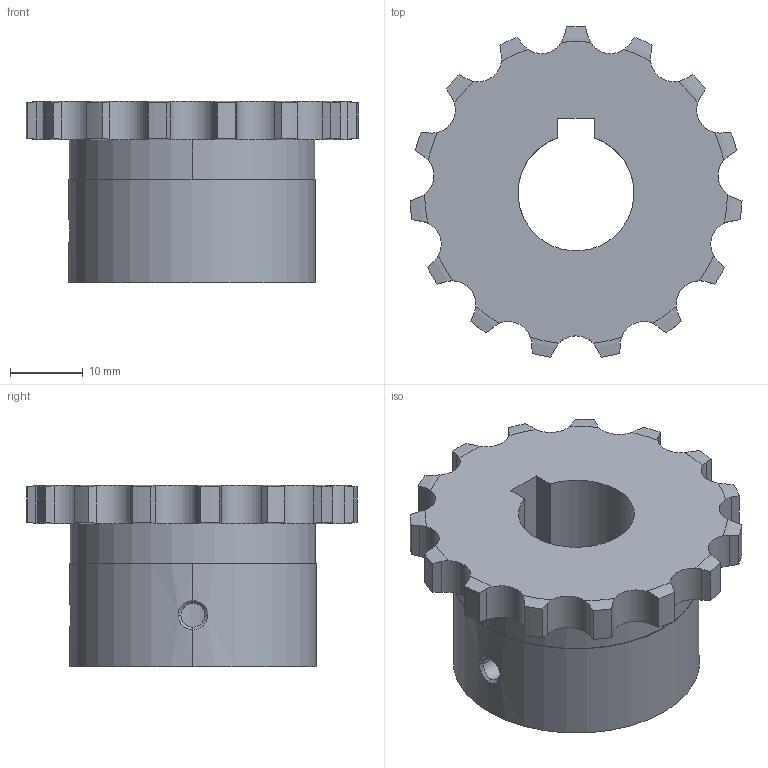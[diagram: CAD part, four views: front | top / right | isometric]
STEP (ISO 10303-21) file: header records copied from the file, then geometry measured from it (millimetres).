
FILE_DESCRIPTION((''),'2;1');
FILE_NAME('510-101-1615_PRT','2021-02-13T',('Brieden'),('Brieden'),'PRO/ENGINEER BY PARAMETRIC TECHNOLOGY CORPORATION, 2010160','PRO/ENGINEER BY PARAMETRIC TECHNOLOGY CORPORATION, 2010160','');
FILE_SCHEMA(('AUTOMOTIVE_DESIGN { 1 0 10303 214 1 1 1 1 }'));
Length unit declared in the file: millimetre
Products named in the file (1): 510-101-1615_PRT
Bounding box: 45.76 x 45.54 x 25 mm (x, y, z)
Volume: 19824 mm3; surface area: 6983.6 mm2
Topology: 1 solids, 1 shells, 112 faces, 321 edges, 212 vertices
Faces by surface type: cylinder 69, torus 30, plane 7, bspline 6
Entity records: 5463 total; most frequent: CARTESIAN_POINT 1673, ORIENTED_EDGE 642, DIRECTION 501, PRESENTATION_STYLE_ASSIGNMENT 322, STYLED_ITEM 322, CURVE_STYLE 321, EDGE_CURVE 321, VERTEX_POINT 212
